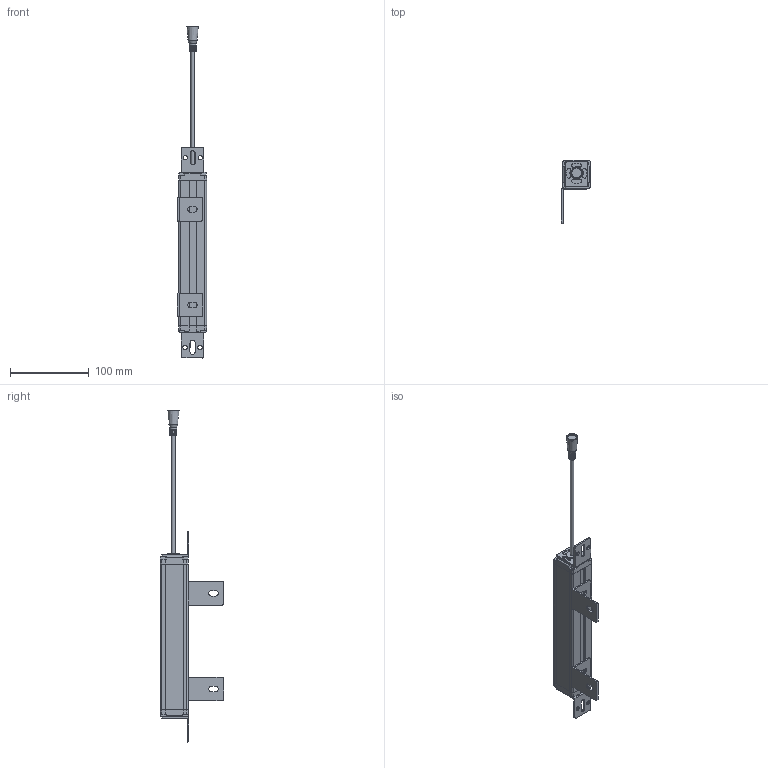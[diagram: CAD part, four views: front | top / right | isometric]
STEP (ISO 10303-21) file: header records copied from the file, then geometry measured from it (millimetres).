
FILE_DESCRIPTION(/* description */ (''),/* implementation_level */ '2;1');
FILE_NAME(/* name */ 'MTD0440.stp',/* time_stamp */ '2023-12-04T16:25:29+08:00',/* author */ (''),/* organization */ (''),/* preprocessor_version */ 'ST-DEVELOPER v16.7',/* originating_system */ 'SIEMENS PLM Software NX 12.0',/* authorisation */ '');
FILE_SCHEMA (('AP203_CONFIGURATION_CONTROLLED_3D_DESIGN_OF_MECHANICAL_PARTS_AND_ASSEMBLIES_MIM_LF { 1 0 10303 403 2 1 2}'));
Length unit declared in the file: millimetre
Products named in the file (1): 1040（35X35__stp
Bounding box: 37 x 80.6 x 422.01 mm (x, y, z)
Volume: 120467 mm3; surface area: 95730.9 mm2
Topology: 10 solids, 10 shells, 563 faces, 1626 edges, 1096 vertices
Faces by surface type: plane 325, cylinder 202, cone 36
Full cylindrical faces by diameter (mm): 4.4 x1, 9 x1, 12.5 x1
Entity records: 18912 total; most frequent: CARTESIAN_POINT 3315, DIRECTION 3263, ORIENTED_EDGE 3230, EDGE_CURVE 1615, VERTEX_POINT 1092, AXIS2_PLACEMENT_3D 1088, LINE 1087, VECTOR 1087
